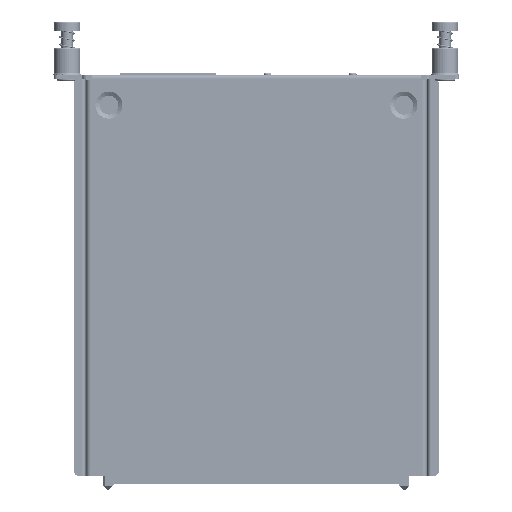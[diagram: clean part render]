
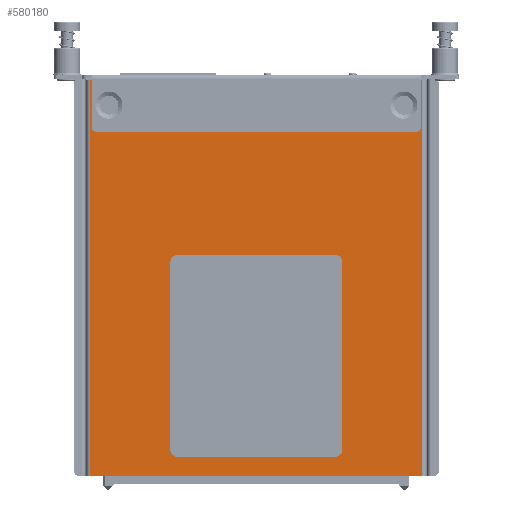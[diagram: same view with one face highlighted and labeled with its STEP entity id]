
A CAD part, front view. The second image highlights one B-rep face of the part: STEP entity #580180.
In plain terms, the highlighted planar face has unit normal (0, -1, 0).
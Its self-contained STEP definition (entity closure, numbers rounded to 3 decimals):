
#140712=DIRECTION('',(0.,0.,-1.));
#140713=VECTOR('',#140712,104.7);
#140714=CARTESIAN_POINT('',(-43.9,-19.3,-0.3));
#140715=LINE('',#140714,#140713);
#140737=CARTESIAN_POINT('',(-42.5,-19.3,-1.3));
#140738=DIRECTION('',(0.,1.,0.));
#140739=DIRECTION('',(0.,0.,1.));
#140740=AXIS2_PLACEMENT_3D('',#140737,#140738,#140739);
#140742=DIRECTION('',(0.,0.,-1.));
#140743=VECTOR('',#140742,0.7);
#140744=CARTESIAN_POINT('',(-41.5,-19.3,-1.3));
#140745=LINE('',#140744,#140743);
#140746=DIRECTION('',(1.,0.,0.));
#140747=VECTOR('',#140746,8.);
#140748=CARTESIAN_POINT('',(-41.5,-19.3,-2.));
#140749=LINE('',#140748,#140747);
#140750=CARTESIAN_POINT('',(-33.5,-19.3,-3.));
#140751=DIRECTION('',(0.,1.,0.));
#140752=DIRECTION('',(0.,0.,1.));
#140753=AXIS2_PLACEMENT_3D('',#140750,#140751,#140752);
#140755=DIRECTION('',(1.,0.,0.));
#140756=VECTOR('',#140755,65.);
#140757=CARTESIAN_POINT('',(-32.5,-19.3,-12.));
#140758=LINE('',#140757,#140756);
#140759=DIRECTION('',(0.,0.,1.));
#140760=VECTOR('',#140759,9.);
#140761=CARTESIAN_POINT('',(32.5,-19.3,-12.));
#140762=LINE('',#140761,#140760);
#140763=CARTESIAN_POINT('',(33.5,-19.3,-3.));
#140764=DIRECTION('',(0.,1.,0.));
#140765=DIRECTION('',(-1.,0.,0.));
#140766=AXIS2_PLACEMENT_3D('',#140763,#140764,#140765);
#140768=DIRECTION('',(1.,0.,0.));
#140769=VECTOR('',#140768,8.);
#140770=CARTESIAN_POINT('',(33.5,-19.3,-2.));
#140771=LINE('',#140770,#140769);
#140772=DIRECTION('',(0.,0.,1.));
#140773=VECTOR('',#140772,0.7);
#140774=CARTESIAN_POINT('',(41.5,-19.3,-2.));
#140775=LINE('',#140774,#140773);
#140776=CARTESIAN_POINT('',(42.5,-19.3,-1.3));
#140777=DIRECTION('',(0.,1.,0.));
#140778=DIRECTION('',(-1.,0.,0.));
#140779=AXIS2_PLACEMENT_3D('',#140776,#140777,#140778);
#140781=DIRECTION('',(1.,0.,0.));
#140782=VECTOR('',#140781,1.4);
#140783=CARTESIAN_POINT('',(42.5,-19.3,-0.3));
#140784=LINE('',#140783,#140782);
#140785=DIRECTION('',(1.,0.,0.));
#140786=VECTOR('',#140785,1.4);
#140787=CARTESIAN_POINT('',(-43.9,-19.3,-0.3));
#140788=LINE('',#140787,#140786);
#140789=CARTESIAN_POINT('',(-39.,-19.3,-7.));
#140790=DIRECTION('',(0.,-1.,0.));
#140791=DIRECTION('',(1.,0.,0.));
#140792=AXIS2_PLACEMENT_3D('',#140789,#140790,#140791);
#140794=CARTESIAN_POINT('',(-39.,-19.3,-7.));
#140795=DIRECTION('',(0.,-1.,0.));
#140796=DIRECTION('',(-1.,0.,0.));
#140797=AXIS2_PLACEMENT_3D('',#140794,#140795,#140796);
#140799=CARTESIAN_POINT('',(39.,-19.3,-7.));
#140800=DIRECTION('',(0.,-1.,0.));
#140801=DIRECTION('',(1.,0.,0.));
#140802=AXIS2_PLACEMENT_3D('',#140799,#140800,#140801);
#140804=CARTESIAN_POINT('',(39.,-19.3,-7.));
#140805=DIRECTION('',(0.,-1.,0.));
#140806=DIRECTION('',(-1.,0.,0.));
#140807=AXIS2_PLACEMENT_3D('',#140804,#140805,#140806);
#140809=CARTESIAN_POINT('',(20.75,-19.3,-48.55));
#140810=DIRECTION('',(0.,-1.,0.));
#140811=DIRECTION('',(1.,0.,0.));
#140812=AXIS2_PLACEMENT_3D('',#140809,#140810,#140811);
#140814=DIRECTION('',(1.,0.,0.));
#140815=VECTOR('',#140814,41.5);
#140816=CARTESIAN_POINT('',(-20.75,-19.3,-46.55));
#140817=LINE('',#140816,#140815);
#140818=CARTESIAN_POINT('',(-20.75,-19.3,-48.55));
#140819=DIRECTION('',(0.,-1.,0.));
#140820=DIRECTION('',(0.,0.,1.));
#140821=AXIS2_PLACEMENT_3D('',#140818,#140819,#140820);
#140823=DIRECTION('',(0.,0.,1.));
#140824=VECTOR('',#140823,49.5);
#140825=CARTESIAN_POINT('',(-22.75,-19.3,-98.05));
#140826=LINE('',#140825,#140824);
#140827=CARTESIAN_POINT('',(-20.75,-19.3,-98.05));
#140828=DIRECTION('',(0.,-1.,0.));
#140829=DIRECTION('',(-1.,0.,0.));
#140830=AXIS2_PLACEMENT_3D('',#140827,#140828,#140829);
#140832=DIRECTION('',(-1.,0.,0.));
#140833=VECTOR('',#140832,41.5);
#140834=CARTESIAN_POINT('',(20.75,-19.3,-100.05));
#140835=LINE('',#140834,#140833);
#140836=CARTESIAN_POINT('',(20.75,-19.3,-98.05));
#140837=DIRECTION('',(0.,-1.,0.));
#140838=DIRECTION('',(0.,0.,-1.));
#140839=AXIS2_PLACEMENT_3D('',#140836,#140837,#140838);
#140841=DIRECTION('',(0.,0.,-1.));
#140842=VECTOR('',#140841,49.5);
#140843=CARTESIAN_POINT('',(22.75,-19.3,-48.55));
#140844=LINE('',#140843,#140842);
#146553=DIRECTION('',(1.,0.,0.));
#146554=VECTOR('',#146553,87.8);
#146555=CARTESIAN_POINT('',(-43.9,-19.3,-105.));
#146556=LINE('',#146555,#146554);
#146574=DIRECTION('',(0.,0.,1.));
#146575=VECTOR('',#146574,104.7);
#146576=CARTESIAN_POINT('',(43.9,-19.3,-105.));
#146577=LINE('',#146576,#146575);
#146685=DIRECTION('',(0.,0.,1.));
#146686=VECTOR('',#146685,9.);
#146687=CARTESIAN_POINT('',(-32.5,-19.3,-12.));
#146688=LINE('',#146687,#146686);
#340855=CARTESIAN_POINT('',(-42.5,-19.3,-0.3));
#340856=CARTESIAN_POINT('',(-41.5,-19.3,-1.3));
#340857=VERTEX_POINT('',#340855);
#340858=VERTEX_POINT('',#340856);
#340859=CARTESIAN_POINT('',(-41.5,-19.3,-2.));
#340860=VERTEX_POINT('',#340859);
#340861=CARTESIAN_POINT('',(-33.5,-19.3,-2.));
#340862=VERTEX_POINT('',#340861);
#340863=CARTESIAN_POINT('',(-32.5,-19.3,-3.));
#340864=VERTEX_POINT('',#340863);
#340865=CARTESIAN_POINT('',(-32.5,-19.3,-12.));
#340866=VERTEX_POINT('',#340865);
#340867=CARTESIAN_POINT('',(32.5,-19.3,-12.));
#340868=VERTEX_POINT('',#340867);
#340869=CARTESIAN_POINT('',(32.5,-19.3,-3.));
#340870=VERTEX_POINT('',#340869);
#340871=CARTESIAN_POINT('',(33.5,-19.3,-2.));
#340872=VERTEX_POINT('',#340871);
#340873=CARTESIAN_POINT('',(41.5,-19.3,-2.));
#340874=VERTEX_POINT('',#340873);
#340875=CARTESIAN_POINT('',(41.5,-19.3,-1.3));
#340876=VERTEX_POINT('',#340875);
#340877=CARTESIAN_POINT('',(42.5,-19.3,-0.3));
#340878=VERTEX_POINT('',#340877);
#340879=CARTESIAN_POINT('',(43.9,-19.3,-0.3));
#340880=VERTEX_POINT('',#340879);
#340881=CARTESIAN_POINT('',(43.9,-19.3,-105.));
#340882=VERTEX_POINT('',#340881);
#340883=CARTESIAN_POINT('',(-43.9,-19.3,-105.));
#340884=VERTEX_POINT('',#340883);
#340885=CARTESIAN_POINT('',(-43.9,-19.3,-0.3));
#340886=VERTEX_POINT('',#340885);
#340987=CARTESIAN_POINT('',(40.55,-19.3,-7.));
#340988=CARTESIAN_POINT('',(37.45,-19.3,-7.));
#340989=VERTEX_POINT('',#340987);
#340990=VERTEX_POINT('',#340988);
#341023=CARTESIAN_POINT('',(-37.45,-19.3,-7.));
#341024=CARTESIAN_POINT('',(-40.55,-19.3,-7.));
#341025=VERTEX_POINT('',#341023);
#341026=VERTEX_POINT('',#341024);
#341183=CARTESIAN_POINT('',(22.75,-19.3,-48.55));
#341184=CARTESIAN_POINT('',(20.75,-19.3,-46.55));
#341185=VERTEX_POINT('',#341183);
#341186=VERTEX_POINT('',#341184);
#341187=CARTESIAN_POINT('',(-20.75,-19.3,-46.55));
#341188=VERTEX_POINT('',#341187);
#341189=CARTESIAN_POINT('',(-22.75,-19.3,-48.55));
#341190=VERTEX_POINT('',#341189);
#341191=CARTESIAN_POINT('',(-22.75,-19.3,-98.05));
#341192=VERTEX_POINT('',#341191);
#341193=CARTESIAN_POINT('',(-20.75,-19.3,-100.05));
#341194=VERTEX_POINT('',#341193);
#341195=CARTESIAN_POINT('',(20.75,-19.3,-100.05));
#341196=VERTEX_POINT('',#341195);
#341197=CARTESIAN_POINT('',(22.75,-19.3,-98.05));
#341198=VERTEX_POINT('',#341197);
#580114=CARTESIAN_POINT('',(0.,-19.3,0.));
#580115=DIRECTION('',(0.,1.,0.));
#580116=DIRECTION('',(1.,0.,0.));
#580117=AXIS2_PLACEMENT_3D('',#580114,#580115,#580116);
#580118=PLANE('',#580117);
#580119=ORIENTED_EDGE('',*,*,#580097,.T.);
#580121=ORIENTED_EDGE('',*,*,#580120,.T.);
#580123=ORIENTED_EDGE('',*,*,#580122,.T.);
#580125=ORIENTED_EDGE('',*,*,#580124,.T.);
#580127=ORIENTED_EDGE('',*,*,#580126,.F.);
#580129=ORIENTED_EDGE('',*,*,#580128,.T.);
#580131=ORIENTED_EDGE('',*,*,#580130,.T.);
#580133=ORIENTED_EDGE('',*,*,#580132,.T.);
#580135=ORIENTED_EDGE('',*,*,#580134,.T.);
#580137=ORIENTED_EDGE('',*,*,#580136,.T.);
#580139=ORIENTED_EDGE('',*,*,#580138,.T.);
#580141=ORIENTED_EDGE('',*,*,#580140,.T.);
#580143=ORIENTED_EDGE('',*,*,#580142,.F.);
#580145=ORIENTED_EDGE('',*,*,#580144,.F.);
#580146=ORIENTED_EDGE('',*,*,#580037,.F.);
#580147=ORIENTED_EDGE('',*,*,#580077,.T.);
#580148=EDGE_LOOP('',(#580119,#580121,#580123,#580125,#580127,#580129,#580131,
#580133,#580135,#580137,#580139,#580141,#580143,#580145,#580146,#580147));
#580149=FACE_OUTER_BOUND('',#580148,.F.);
#580151=ORIENTED_EDGE('',*,*,#580150,.T.);
#580153=ORIENTED_EDGE('',*,*,#580152,.T.);
#580154=EDGE_LOOP('',(#580151,#580153));
#580155=FACE_BOUND('',#580154,.F.);
#580157=ORIENTED_EDGE('',*,*,#580156,.T.);
#580159=ORIENTED_EDGE('',*,*,#580158,.T.);
#580160=EDGE_LOOP('',(#580157,#580159));
#580161=FACE_BOUND('',#580160,.F.);
#580163=ORIENTED_EDGE('',*,*,#580162,.T.);
#580165=ORIENTED_EDGE('',*,*,#580164,.F.);
#580167=ORIENTED_EDGE('',*,*,#580166,.T.);
#580169=ORIENTED_EDGE('',*,*,#580168,.F.);
#580171=ORIENTED_EDGE('',*,*,#580170,.T.);
#580173=ORIENTED_EDGE('',*,*,#580172,.F.);
#580175=ORIENTED_EDGE('',*,*,#580174,.T.);
#580177=ORIENTED_EDGE('',*,*,#580176,.F.);
#580178=EDGE_LOOP('',(#580163,#580165,#580167,#580169,#580171,#580173,#580175,
#580177));
#580179=FACE_BOUND('',#580178,.F.);
#140741=CIRCLE('',#140740,1.);
#140754=CIRCLE('',#140753,1.);
#140767=CIRCLE('',#140766,1.);
#140780=CIRCLE('',#140779,1.);
#140793=CIRCLE('',#140792,1.55);
#140798=CIRCLE('',#140797,1.55);
#140803=CIRCLE('',#140802,1.55);
#140808=CIRCLE('',#140807,1.55);
#140813=CIRCLE('',#140812,2.);
#140822=CIRCLE('',#140821,2.);
#140831=CIRCLE('',#140830,2.);
#140840=CIRCLE('',#140839,2.);
#580037=EDGE_CURVE('',#340886,#340884,#140715,.T.);
#580077=EDGE_CURVE('',#340886,#340857,#140788,.T.);
#580097=EDGE_CURVE('',#340857,#340858,#140741,.T.);
#580120=EDGE_CURVE('',#340858,#340860,#140745,.T.);
#580122=EDGE_CURVE('',#340860,#340862,#140749,.T.);
#580124=EDGE_CURVE('',#340862,#340864,#140754,.T.);
#580126=EDGE_CURVE('',#340866,#340864,#146688,.T.);
#580128=EDGE_CURVE('',#340866,#340868,#140758,.T.);
#580130=EDGE_CURVE('',#340868,#340870,#140762,.T.);
#580132=EDGE_CURVE('',#340870,#340872,#140767,.T.);
#580134=EDGE_CURVE('',#340872,#340874,#140771,.T.);
#580136=EDGE_CURVE('',#340874,#340876,#140775,.T.);
#580138=EDGE_CURVE('',#340876,#340878,#140780,.T.);
#580140=EDGE_CURVE('',#340878,#340880,#140784,.T.);
#580142=EDGE_CURVE('',#340882,#340880,#146577,.T.);
#580144=EDGE_CURVE('',#340884,#340882,#146556,.T.);
#580150=EDGE_CURVE('',#341025,#341026,#140793,.T.);
#580152=EDGE_CURVE('',#341026,#341025,#140798,.T.);
#580156=EDGE_CURVE('',#340989,#340990,#140803,.T.);
#580158=EDGE_CURVE('',#340990,#340989,#140808,.T.);
#580162=EDGE_CURVE('',#341185,#341186,#140813,.T.);
#580164=EDGE_CURVE('',#341188,#341186,#140817,.T.);
#580166=EDGE_CURVE('',#341188,#341190,#140822,.T.);
#580168=EDGE_CURVE('',#341192,#341190,#140826,.T.);
#580170=EDGE_CURVE('',#341192,#341194,#140831,.T.);
#580172=EDGE_CURVE('',#341196,#341194,#140835,.T.);
#580174=EDGE_CURVE('',#341196,#341198,#140840,.T.);
#580176=EDGE_CURVE('',#341185,#341198,#140844,.T.);
#580180=ADVANCED_FACE('',(#580149,#580155,#580161,#580179),#580118,.F.);
